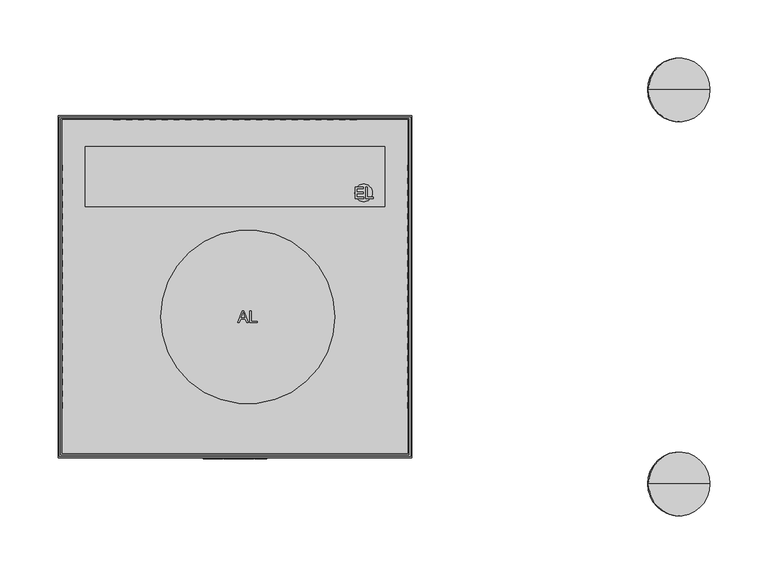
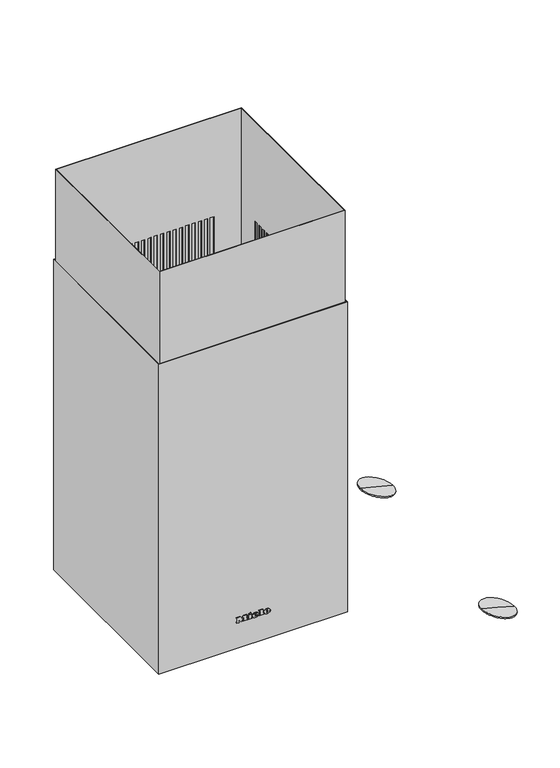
"""IFC4 building model written with IfcOpenShell, lengths in millimetres: proxy geometry, 10863270_RU_DA4208VD_EDST : 28420855_RU_10863270_DA4208VD_EDST."""

from ifc_helpers import new_model, si_unit, point, frame, frame_2d, origin, place, context, project, spatial, polyline, circle_curve, ellipse_curve, trimmed, segment, composite_curve, outline, extrude, faceted_brep, source, transform, mapped, element, save
from ifc_brep_helpers import plane_surface, cylinder_surface, revolved_surface, extruded_surface, advanced_brep


def specialty_equipment_3f4daebc(model_context):
    return source(origin(), model_context, "Body", "SolidModel", [
        advanced_brep(
        [(21.38, -148.5, 116.133), (21.38, -148.5, 117.042), (27.401, -148.5, 117.042), (16.925, -148.5, 117.042), (19.4, -148.5, 114.0), (27.248, -148.5, 116.133), (24.53, -148.5, 116.133), (22.388, -148.5, 115.125), (21.38, -148.5, 118.194), (21.38, -148.5, 119.175), (22.919, -148.5, 119.175), (22.919, -148.5, 118.194), (21.38, -147.5, 116.133), (22.388, -147.5, 115.125), (24.53, -147.5, 116.133), (27.248, -147.5, 116.133), (19.4, -147.5, 114.0), (16.925, -147.5, 117.042), (27.401, -147.5, 117.042), (21.38, -147.5, 117.042), (21.38, -147.5, 118.194), (22.919, -147.5, 118.194), (22.919, -147.5, 119.175), (21.38, -147.5, 119.175)],
        [
            (0, 1),
            (1, 2),
            (2, 3, ellipse_curve(frame((22.163, -148.5, 117.042), z_axis=(0.0, -1.0, 0.0), x_axis=(-1.0, 0.0, 0.0)), 5.238, 4.329)),
            (3, 4, circle_curve(frame((20.4080491, -148.5, 117.348), z_axis=(0.0, -1.0, 0.0), x_axis=(0.0, 0.0, -1.0)), 3.4964649)),
            (4, 5, circle_curve(frame((22.0581428, -148.5, 119.724), z_axis=(0.0, -1.0, 0.0), x_axis=(0.0, 0.0, -1.0)), 6.3110933)),
            (5, 6),
            (6, 7, circle_curve(frame((22.8279412, -148.5, 116.97), z_axis=(0.0, 1.0, 0.0), x_axis=(0.0, 0.0, -1.0)), 1.896727)),
            (7, 0, circle_curve(frame((22.388, -148.5, 116.133), z_axis=(0.0, 1.0, 0.0), x_axis=(0.0, 0.0, -1.0)), 1.008)),
            (8, 9),
            (9, 10, circle_curve(frame((22.1495, -148.5, 119.175), z_axis=(0.0, 1.0, 0.0), x_axis=(0.0, 0.0, -1.0)), 0.7695)),
            (10, 11),
            (11, 8),
            (12, 13, circle_curve(frame((22.388, -147.5, 116.133), z_axis=(0.0, -1.0, 0.0), x_axis=(0.0, 0.0, -1.0)), 1.008)),
            (13, 14, circle_curve(frame((22.8279412, -147.5, 116.97), z_axis=(0.0, -1.0, 0.0), x_axis=(0.0, 0.0, -1.0)), 1.896727)),
            (14, 15),
            (15, 16, circle_curve(frame((22.0581428, -147.5, 119.724), z_axis=(0.0, 1.0, 0.0), x_axis=(0.0, 0.0, -1.0)), 6.3110933)),
            (16, 17, circle_curve(frame((20.4080491, -147.5, 117.348), z_axis=(0.0, 1.0, 0.0), x_axis=(0.0, 0.0, -1.0)), 3.4964649)),
            (17, 18, ellipse_curve(frame((22.163, -147.5, 117.042), z_axis=(0.0, 1.0, 0.0), x_axis=(-1.0, 0.0, 0.0)), 5.238, 4.329)),
            (18, 19),
            (19, 12),
            (20, 21),
            (21, 22),
            (22, 23, circle_curve(frame((22.1495, -147.5, 119.175), z_axis=(0.0, -1.0, 0.0), x_axis=(0.0, 0.0, -1.0)), 0.7695)),
            (23, 20),
            (0, 12),
            (19, 1),
            (18, 2),
            (5, 15),
            (14, 6),
            (17, 3),
            (13, 7),
            (16, 4),
            (8, 20),
            (23, 9),
            (22, 10),
            (21, 11),
        ],
        [
            plane_surface(frame((21.38, -148.5, 117.042), z_axis=(0.0, -1.0, 0.0), x_axis=(0.0, 0.0, 1.0))),
            plane_surface(frame((21.38, -147.5, 117.042), z_axis=(0.0, 1.0, 0.0), x_axis=(0.0, 0.0, -1.0))),
            plane_surface(frame((21.38, -148.5, 116.133), z_axis=(1.0, 0.0, 0.0), x_axis=(0.0, 1.0, 0.0))),
            plane_surface(frame((21.38, -148.5, 117.042), z_axis=(0.0, 0.0, -1.0), x_axis=(0.0, 1.0, 0.0))),
            plane_surface(frame((27.248, -148.5, 116.133), z_axis=(0.0, 0.0, 1.0), x_axis=(0.0, 1.0, 0.0))),
            extruded_surface(trimmed(ellipse_curve(frame((22.163, -146.5, 117.042), z_axis=(0.0, -1.0, 0.0), x_axis=(-1.0, 0.0, 0.0)), 5.238, 4.329), [point((27.401, -146.5, 117.042))], [point((16.925, -146.5, 117.042))], True, "CARTESIAN"), (0.0, -1.0, 0.0), 1.0),
            revolved_surface(polyline([(22.8279412, -147.5, 115.073273), (22.8279412, -148.5, 115.073273)]), (22.8279412, -147.5, 116.97), (0.0, 1.0, 0.0)),
            revolved_surface(polyline([(22.388, -147.5, 115.125), (22.388, -148.5, 115.125)]), (22.388, -147.5, 116.133), (0.0, 1.0, 0.0)),
            cylinder_surface(frame((20.4080491, -147.5, 117.348), z_axis=(0.0, -1.0, 0.0), x_axis=(0.0, 0.0, -1.0)), 3.4964649),
            cylinder_surface(frame((22.0581428, -147.5, 119.724), z_axis=(0.0, -1.0, 0.0), x_axis=(0.0, 0.0, -1.0)), 6.3110933),
            plane_surface(frame((21.38, -148.5, 118.194), z_axis=(1.0, 0.0, 0.0), x_axis=(0.0, 1.0, 0.0))),
            revolved_surface(polyline([(22.1495, -147.5, 118.4055), (22.1495, -148.5, 118.4055)]), (22.1495, -147.5, 119.175), (0.0, 1.0, 0.0)),
            plane_surface(frame((22.919, -148.5, 119.175), z_axis=(-1.0, 0.0, 0.0), x_axis=(0.0, 1.0, 0.0))),
            plane_surface(frame((22.919, -148.5, 118.194), z_axis=(0.0, 0.0, 1.0), x_axis=(0.0, 1.0, 0.0))),
        ],
        [
            (0, [[1, 2, 3, 4, 5, 6, 7, 8], [9, 10, 11, 12]]),
            (1, [[13, 14, 15, 16, 17, 18, 19, 20], [21, 22, 23, 24]]),
            (2, [[-1, 25, -20, 26]]),
            (3, [[-2, -26, -19, 27]]),
            (4, [[-6, 28, -15, 29]]),
            (5, [[-3, -27, -18, 30]]),
            (6, [[-7, -29, -14, 31]]),
            (7, [[-8, -31, -13, -25]]),
            (8, [[-4, -30, -17, 32]]),
            (9, [[-5, -32, -16, -28]]),
            (10, [[-9, 33, -24, 34]]),
            (11, [[-10, -34, -23, 35]]),
            (12, [[-11, -35, -22, 36]]),
            (13, [[-12, -36, -21, -33]]),
        ],
    ),
        advanced_brep(
        [(2.597, -148.5, 116.133), (2.597, -148.5, 117.042), (8.618, -148.5, 117.042), (-1.858, -148.5, 117.042), (0.617, -148.5, 114.0), (8.465, -148.5, 116.133), (5.747, -148.5, 116.133), (3.605, -148.5, 115.125), (2.597, -148.5, 118.194), (2.597, -148.5, 119.175), (4.136, -148.5, 119.175), (4.136, -148.5, 118.194), (2.597, -147.5, 116.133), (3.605, -147.5, 115.125), (5.747, -147.5, 116.133), (8.465, -147.5, 116.133), (0.617, -147.5, 114.0), (-1.858, -147.5, 117.042), (8.618, -147.5, 117.042), (2.597, -147.5, 117.042), (2.597, -147.5, 118.194), (4.136, -147.5, 118.194), (4.136, -147.5, 119.175), (2.597, -147.5, 119.175)],
        [
            (0, 1),
            (1, 2),
            (2, 3, ellipse_curve(frame((3.38, -148.5, 117.042), z_axis=(0.0, -1.0, 0.0), x_axis=(-1.0, 0.0, 0.0)), 5.238, 4.329)),
            (3, 4, circle_curve(frame((1.6250491, -148.5, 117.348), z_axis=(0.0, -1.0, 0.0), x_axis=(0.0, 0.0, -1.0)), 3.4964649)),
            (4, 5, circle_curve(frame((3.2751428, -148.5, 119.724), z_axis=(0.0, -1.0, 0.0), x_axis=(0.0, 0.0, -1.0)), 6.3110933)),
            (5, 6),
            (6, 7, circle_curve(frame((4.0449412, -148.5, 116.97), z_axis=(0.0, 1.0, 0.0), x_axis=(0.0, 0.0, -1.0)), 1.896727)),
            (7, 0, circle_curve(frame((3.605, -148.5, 116.133), z_axis=(0.0, 1.0, 0.0), x_axis=(0.0, 0.0, -1.0)), 1.008)),
            (8, 9),
            (9, 10, circle_curve(frame((3.3665, -148.5, 119.175), z_axis=(0.0, 1.0, 0.0), x_axis=(0.0, 0.0, -1.0)), 0.7695)),
            (10, 11),
            (11, 8),
            (12, 13, circle_curve(frame((3.605, -147.5, 116.133), z_axis=(0.0, -1.0, 0.0), x_axis=(0.0, 0.0, -1.0)), 1.008)),
            (13, 14, circle_curve(frame((4.0449412, -147.5, 116.97), z_axis=(0.0, -1.0, 0.0), x_axis=(0.0, 0.0, -1.0)), 1.896727)),
            (14, 15),
            (15, 16, circle_curve(frame((3.2751428, -147.5, 119.724), z_axis=(0.0, 1.0, 0.0), x_axis=(0.0, 0.0, -1.0)), 6.3110933)),
            (16, 17, circle_curve(frame((1.6250491, -147.5, 117.348), z_axis=(0.0, 1.0, 0.0), x_axis=(0.0, 0.0, -1.0)), 3.4964649)),
            (17, 18, ellipse_curve(frame((3.38, -147.5, 117.042), z_axis=(0.0, 1.0, 0.0), x_axis=(-1.0, 0.0, 0.0)), 5.238, 4.329)),
            (18, 19),
            (19, 12),
            (20, 21),
            (21, 22),
            (22, 23, circle_curve(frame((3.3665, -147.5, 119.175), z_axis=(0.0, -1.0, 0.0), x_axis=(0.0, 0.0, -1.0)), 0.7695)),
            (23, 20),
            (0, 12),
            (19, 1),
            (18, 2),
            (5, 15),
            (14, 6),
            (17, 3),
            (13, 7),
            (16, 4),
            (8, 20),
            (23, 9),
            (22, 10),
            (21, 11),
        ],
        [
            plane_surface(frame((2.597, -148.5, 117.042), z_axis=(0.0, -1.0, 0.0), x_axis=(0.0, 0.0, 1.0))),
            plane_surface(frame((2.597, -147.5, 117.042), z_axis=(0.0, 1.0, 0.0), x_axis=(0.0, 0.0, -1.0))),
            plane_surface(frame((2.597, -148.5, 116.133), z_axis=(1.0, 0.0, 0.0), x_axis=(0.0, 1.0, 0.0))),
            plane_surface(frame((2.597, -148.5, 117.042), z_axis=(0.0, 0.0, -1.0), x_axis=(0.0, 1.0, 0.0))),
            plane_surface(frame((8.465, -148.5, 116.133), z_axis=(0.0, 0.0, 1.0), x_axis=(0.0, 1.0, 0.0))),
            extruded_surface(trimmed(ellipse_curve(frame((3.38, -146.5, 117.042), z_axis=(0.0, -1.0, 0.0), x_axis=(-1.0, 0.0, 0.0)), 5.238, 4.329), [point((8.618, -146.5, 117.042))], [point((-1.858, -146.5, 117.042))], True, "CARTESIAN"), (0.0, -1.0, 0.0), 1.0),
            revolved_surface(polyline([(4.0449412, -147.5, 115.073273), (4.0449412, -148.5, 115.073273)]), (4.0449412, -147.5, 116.97), (0.0, 1.0, 0.0)),
            revolved_surface(polyline([(3.605, -147.5, 115.125), (3.605, -148.5, 115.125)]), (3.605, -147.5, 116.133), (0.0, 1.0, 0.0)),
            cylinder_surface(frame((1.6250491, -147.5, 117.348), z_axis=(0.0, -1.0, 0.0), x_axis=(0.0, 0.0, -1.0)), 3.4964649),
            cylinder_surface(frame((3.2751428, -147.5, 119.724), z_axis=(0.0, -1.0, 0.0), x_axis=(0.0, 0.0, -1.0)), 6.3110933),
            plane_surface(frame((2.597, -148.5, 118.194), z_axis=(1.0, 0.0, 0.0), x_axis=(0.0, 1.0, 0.0))),
            revolved_surface(polyline([(3.3665, -147.5, 118.4055), (3.3665, -148.5, 118.4055)]), (3.3665, -147.5, 119.175), (0.0, 1.0, 0.0)),
            plane_surface(frame((4.136, -148.5, 119.175), z_axis=(-1.0, 0.0, 0.0), x_axis=(0.0, 1.0, 0.0))),
            plane_surface(frame((4.136, -148.5, 118.194), z_axis=(0.0, 0.0, 1.0), x_axis=(0.0, 1.0, 0.0))),
        ],
        [
            (0, [[1, 2, 3, 4, 5, 6, 7, 8], [9, 10, 11, 12]]),
            (1, [[13, 14, 15, 16, 17, 18, 19, 20], [21, 22, 23, 24]]),
            (2, [[-1, 25, -20, 26]]),
            (3, [[-2, -26, -19, 27]]),
            (4, [[-6, 28, -15, 29]]),
            (5, [[-3, -27, -18, 30]]),
            (6, [[-7, -29, -14, 31]]),
            (7, [[-8, -31, -13, -25]]),
            (8, [[-4, -30, -17, 32]]),
            (9, [[-5, -32, -16, -28]]),
            (10, [[-9, 33, -24, 34]]),
            (11, [[-10, -34, -23, 35]]),
            (12, [[-11, -35, -22, 36]]),
            (13, [[-12, -36, -21, -33]]),
        ],
    ),
        extrude(outline(polyline([(122.469, -7.24), (121.011, -6.556), (122.433, -3.505), (123.891, -4.18), (122.469, -7.24)])), frame((0.0, -148.5, 0.0), z_axis=(0.0, 1.0, 0.0), x_axis=(0.0, 0.0, 1.0)), (0.0, 0.0, 1.0), 1.0),
        extrude(outline(polyline([(120.813, -9.463), (119.202, -9.463), (119.202, -8.392), (115.512, -8.392), (115.512, -9.463), (114.0, -9.463), (114.0, -2.362), (115.512, -2.362), (115.512, -3.406), (120.813, -3.406), (120.813, -9.463)])), frame((0.0, -148.5, 0.0), z_axis=(0.0, 1.0, 0.0), x_axis=(0.0, 0.0, 1.0)), (0.0, 0.0, 1.0), 1.0),
        extrude(outline(polyline([(121.533, 9.122), (121.533, 10.202), (115.512, 10.202), (115.512, 9.122), (114.0, 9.122), (114.0, 16.421), (115.512, 16.421), (115.512, 15.314), (123.0, 15.314), (123.0, 9.122), (121.533, 9.122)])), frame((0.0, -148.5, 0.0), z_axis=(0.0, 1.0, 0.0), x_axis=(0.0, 0.0, 1.0)), (0.0, 0.0, 1.0), 1.0),
        extrude(outline(polyline([(121.533, -27.4), (121.533, -26.311), (115.512, -26.311), (115.512, -27.4), (114.0, -27.4), (114.0, -23.44), (115.512, -23.44), (115.512, -24.52), (119.3341247, -24.52), (114.0, -20.497), (119.4402223, -16.456), (115.512, -16.456), (115.512, -17.563), (114.0, -17.563), (114.0, -10.381), (115.512, -10.381), (115.512, -11.524), (121.533, -11.524), (121.533, -10.381), (123.0, -10.381), (123.0, -15.862), (119.625, -18.49), (123.0, -21.127), (123.0, -27.4), (121.533, -27.4)])), frame((0.0, -148.5, 0.0), z_axis=(0.0, 1.0, 0.0), x_axis=(0.0, 0.0, 1.0)), (0.0, 0.0, 1.0), 1.0),
        faceted_brep([(-150.0, -145.0, 755.0), (150.0, -145.0, 755.0), (150.0, 145.0, 755.0), (-150.0, 145.0, 755.0), (-149.0, -144.0, 755.0), (-149.0, 144.0, 755.0), (149.0, 144.0, 755.0), (149.0, -144.0, 755.0), (-150.0, -145.0, 440.0), (-150.0, 145.0, 440.0), (150.0, 145.0, 440.0), (150.0, -145.0, 440.0), (-149.0, -144.0, 440.0), (149.0, -144.0, 440.0), (149.0, 144.0, 440.0), (-149.0, 144.0, 440.0), (-105.0, -145.0, 585.0), (-98.8, -145.0, 585.0), (-98.8, -145.0, 485.0), (-105.0, -145.0, 485.0), (98.8, -145.0, 585.0), (105.0, -145.0, 585.0), (105.0, -145.0, 485.0), (98.8, -145.0, 485.0), (-93.6, -145.0, 585.0), (-88.6, -145.0, 585.0), (-88.6, -145.0, 485.0), (-93.6, -145.0, 485.0), (-83.4, -145.0, 585.0), (-78.4, -145.0, 585.0), (-78.4, -145.0, 485.0), (-83.4, -145.0, 485.0), (-73.2, -145.0, 585.0), (-68.2, -145.0, 585.0), (-68.2, -145.0, 485.0), (-73.2, -145.0, 485.0), (-63.0, -145.0, 585.0), (-58.0, -145.0, 585.0), (-58.0, -145.0, 485.0), (-63.0, -145.0, 485.0), (-52.8, -145.0, 585.0), (-47.8, -145.0, 585.0), (-47.8, -145.0, 485.0), (-52.8, -145.0, 485.0), (-42.6, -145.0, 585.0), (-37.6, -145.0, 585.0), (-37.6, -145.0, 485.0), (-42.6, -145.0, 485.0), (-32.4, -145.0, 585.0), (-27.4, -145.0, 585.0), (-27.4, -145.0, 485.0), (-32.4, -145.0, 485.0), (-22.2, -145.0, 585.0), (-17.2, -145.0, 585.0), (-17.2, -145.0, 485.0), (-22.2, -145.0, 485.0), (-12.0, -145.0, 585.0), (-7.0, -145.0, 585.0), (-7.0, -145.0, 485.0), (-12.0, -145.0, 485.0), (-1.8, -145.0, 585.0), (3.2, -145.0, 585.0), (3.2, -145.0, 485.0), (-1.8, -145.0, 485.0), (8.4, -145.0, 585.0), (13.4, -145.0, 585.0), (13.4, -145.0, 485.0), (8.4, -145.0, 485.0), (18.6, -145.0, 585.0), (23.6, -145.0, 585.0), (23.6, -145.0, 485.0), (18.6, -145.0, 485.0), (28.8, -145.0, 585.0), (33.8, -145.0, 585.0), (33.8, -145.0, 485.0), (28.8, -145.0, 485.0), (39.0, -145.0, 585.0), (44.0, -145.0, 585.0), (44.0, -145.0, 485.0), (39.0, -145.0, 485.0), (49.2, -145.0, 585.0), (54.2, -145.0, 585.0), (54.2, -145.0, 485.0), (49.2, -145.0, 485.0), (59.4, -145.0, 585.0), (64.4, -145.0, 585.0), (64.4, -145.0, 485.0), (59.4, -145.0, 485.0), (69.6, -145.0, 585.0), (74.6, -145.0, 585.0), (74.6, -145.0, 485.0), (69.6, -145.0, 485.0), (79.8, -145.0, 585.0), (84.8, -145.0, 585.0), (84.8, -145.0, 485.0), (79.8, -145.0, 485.0), (90.0, -145.0, 585.0), (95.0, -145.0, 585.0), (95.0, -145.0, 485.0), (90.0, -145.0, 485.0), (150.0, -105.0, 585.0), (150.0, -100.0, 585.0), (150.0, -100.0, 485.0), (150.0, -105.0, 485.0), (150.0, -94.8, 585.0), (150.0, -89.8, 585.0), (150.0, -89.8, 485.0), (150.0, -94.8, 485.0), (150.0, -84.6, 585.0), (150.0, -79.6, 585.0), (150.0, -79.6, 485.0), (150.0, -84.6, 485.0), (150.0, -74.4, 585.0), (150.0, -69.4, 585.0), (150.0, -69.4, 485.0), (150.0, -74.4, 485.0), (150.0, -64.2, 585.0), (150.0, -59.2, 585.0), (150.0, -59.2, 485.0), (150.0, -64.2, 485.0), (150.0, -54.0, 585.0), (150.0, -49.0, 585.0), (150.0, -49.0, 485.0), (150.0, -54.0, 485.0), (150.0, -43.8, 585.0), (150.0, -38.8, 585.0), (150.0, -38.8, 485.0), (150.0, -43.8, 485.0), (150.0, -33.6, 585.0), (150.0, -28.6, 585.0), (150.0, -28.6, 485.0), (150.0, -33.6, 485.0), (150.0, -23.4, 585.0), (150.0, -18.4, 585.0), (150.0, -18.4, 485.0), (150.0, -23.4, 485.0), (150.0, -13.2, 585.0), (150.0, -8.2, 585.0), (150.0, -8.2, 485.0), (150.0, -13.2, 485.0), (150.0, -3.0, 585.0), (150.0, 2.0, 585.0), (150.0, 2.0, 485.0), (150.0, -3.0, 485.0), (150.0, 7.2, 585.0), (150.0, 12.2, 585.0), (150.0, 12.2, 485.0), (150.0, 7.2, 485.0), (150.0, 17.4, 585.0), (150.0, 22.4, 585.0), (150.0, 22.4, 485.0), (150.0, 17.4, 485.0), (150.0, 27.6, 585.0), (150.0, 32.6, 585.0), (150.0, 32.6, 485.0), (150.0, 27.6, 485.0), (150.0, 37.8, 585.0), (150.0, 42.8, 585.0), (150.0, 42.8, 485.0), (150.0, 37.8, 485.0), (150.0, 48.0, 585.0), (150.0, 53.0, 585.0), (150.0, 53.0, 485.0), (150.0, 48.0, 485.0), (150.0, 58.2, 585.0), (150.0, 63.2, 585.0), (150.0, 63.2, 485.0), (150.0, 58.2, 485.0), (150.0, 68.4, 585.0), (150.0, 73.4, 585.0), (150.0, 73.4, 485.0), (150.0, 68.4, 485.0), (150.0, 100.0, 585.0), (150.0, 105.0, 585.0), (150.0, 105.0, 485.0), (150.0, 100.0, 485.0), (150.0, 78.6, 585.0), (150.0, 83.6, 585.0), (150.0, 83.6, 485.0), (150.0, 78.6, 485.0), (150.0, 88.8, 585.0), (150.0, 93.8, 585.0), (150.0, 93.8, 485.0), (150.0, 88.8, 485.0), (-98.8, 145.0, 585.0), (-105.0, 145.0, 585.0), (-105.0, 145.0, 485.0), (-98.8, 145.0, 485.0), (105.0, 145.0, 585.0), (98.8, 145.0, 585.0), (98.8, 145.0, 485.0), (105.0, 145.0, 485.0), (-88.6, 145.0, 585.0), (-93.6, 145.0, 585.0), (-93.6, 145.0, 485.0), (-88.6, 145.0, 485.0), (-78.4, 145.0, 585.0), (-83.4, 145.0, 585.0), (-83.4, 145.0, 485.0), (-78.4, 145.0, 485.0), (-68.2, 145.0, 585.0), (-73.2, 145.0, 585.0), (-73.2, 145.0, 485.0), (-68.2, 145.0, 485.0), (-58.0, 145.0, 585.0), (-63.0, 145.0, 585.0), (-63.0, 145.0, 485.0), (-58.0, 145.0, 485.0), (-47.8, 145.0, 585.0), (-52.8, 145.0, 585.0), (-52.8, 145.0, 485.0), (-47.8, 145.0, 485.0), (-37.6, 145.0, 585.0), (-42.6, 145.0, 585.0), (-42.6, 145.0, 485.0), (-37.6, 145.0, 485.0), (-27.4, 145.0, 585.0), (-32.4, 145.0, 585.0), (-32.4, 145.0, 485.0), (-27.4, 145.0, 485.0), (-17.2, 145.0, 585.0), (-22.2, 145.0, 585.0), (-22.2, 145.0, 485.0), (-17.2, 145.0, 485.0), (-7.0, 145.0, 585.0), (-12.0, 145.0, 585.0), (-12.0, 145.0, 485.0), (-7.0, 145.0, 485.0), (3.2, 145.0, 585.0), (-1.8, 145.0, 585.0), (-1.8, 145.0, 485.0), (3.2, 145.0, 485.0), (13.4, 145.0, 585.0), (8.4, 145.0, 585.0), (8.4, 145.0, 485.0), (13.4, 145.0, 485.0), (23.6, 145.0, 585.0), (18.6, 145.0, 585.0), (18.6, 145.0, 485.0), (23.6, 145.0, 485.0), (33.8, 145.0, 585.0), (28.8, 145.0, 585.0), (28.8, 145.0, 485.0), (33.8, 145.0, 485.0), (44.0, 145.0, 585.0), (39.0, 145.0, 585.0), (39.0, 145.0, 485.0), (44.0, 145.0, 485.0), (54.2, 145.0, 585.0), (49.2, 145.0, 585.0), (49.2, 145.0, 485.0), (54.2, 145.0, 485.0), (64.4, 145.0, 585.0), (59.4, 145.0, 585.0), (59.4, 145.0, 485.0), (64.4, 145.0, 485.0), (74.6, 145.0, 585.0), (69.6, 145.0, 585.0), (69.6, 145.0, 485.0), (74.6, 145.0, 485.0), (84.8, 145.0, 585.0), (79.8, 145.0, 585.0), (79.8, 145.0, 485.0), (84.8, 145.0, 485.0), (95.0, 145.0, 585.0), (90.0, 145.0, 585.0), (90.0, 145.0, 485.0), (95.0, 145.0, 485.0), (-150.0, -100.0, 585.0), (-150.0, -105.0, 585.0), (-150.0, -105.0, 485.0), (-150.0, -100.0, 485.0), (-150.0, -89.8, 585.0), (-150.0, -94.8, 585.0), (-150.0, -94.8, 485.0), (-150.0, -89.8, 485.0), (-150.0, -79.6, 585.0), (-150.0, -84.6, 585.0), (-150.0, -84.6, 485.0), (-150.0, -79.6, 485.0), (-150.0, -69.4, 585.0), (-150.0, -74.4, 585.0), (-150.0, -74.4, 485.0), (-150.0, -69.4, 485.0), (-150.0, -59.2, 585.0), (-150.0, -64.2, 585.0), (-150.0, -64.2, 485.0), (-150.0, -59.2, 485.0), (-150.0, -49.0, 585.0), (-150.0, -54.0, 585.0), (-150.0, -54.0, 485.0), (-150.0, -49.0, 485.0), (-150.0, -38.8, 585.0), (-150.0, -43.8, 585.0), (-150.0, -43.8, 485.0), (-150.0, -38.8, 485.0), (-150.0, -28.6, 585.0), (-150.0, -33.6, 585.0), (-150.0, -33.6, 485.0), (-150.0, -28.6, 485.0), (-150.0, -18.4, 585.0), (-150.0, -23.4, 585.0), (-150.0, -23.4, 485.0), (-150.0, -18.4, 485.0), (-150.0, -8.2, 585.0), (-150.0, -13.2, 585.0), (-150.0, -13.2, 485.0), (-150.0, -8.2, 485.0), (-150.0, 2.0, 585.0), (-150.0, -3.0, 585.0), (-150.0, -3.0, 485.0), (-150.0, 2.0, 485.0), (-150.0, 12.2, 585.0), (-150.0, 7.2, 585.0), (-150.0, 7.2, 485.0), (-150.0, 12.2, 485.0), (-150.0, 22.4, 585.0), (-150.0, 17.4, 585.0), (-150.0, 17.4, 485.0), (-150.0, 22.4, 485.0), (-150.0, 32.6, 585.0), (-150.0, 27.6, 585.0), (-150.0, 27.6, 485.0), (-150.0, 32.6, 485.0), (-150.0, 42.8, 585.0), (-150.0, 37.8, 585.0), (-150.0, 37.8, 485.0), (-150.0, 42.8, 485.0), (-150.0, 53.0, 585.0), (-150.0, 48.0, 585.0), (-150.0, 48.0, 485.0), (-150.0, 53.0, 485.0), (-150.0, 63.2, 585.0), (-150.0, 58.2, 585.0), (-150.0, 58.2, 485.0), (-150.0, 63.2, 485.0), (-150.0, 73.4, 585.0), (-150.0, 68.4, 585.0), (-150.0, 68.4, 485.0), (-150.0, 73.4, 485.0), (-150.0, 105.0, 585.0), (-150.0, 100.0, 585.0), (-150.0, 100.0, 485.0), (-150.0, 105.0, 485.0), (-150.0, 83.6, 585.0), (-150.0, 78.6, 585.0), (-150.0, 78.6, 485.0), (-150.0, 83.6, 485.0), (-150.0, 93.8, 585.0), (-150.0, 88.8, 585.0), (-150.0, 88.8, 485.0), (-150.0, 93.8, 485.0), (-149.0, -105.0, 585.0), (-149.0, -100.0, 585.0), (-149.0, -100.0, 485.0), (-149.0, -105.0, 485.0), (-149.0, -94.8, 585.0), (-149.0, -89.8, 585.0), (-149.0, -89.8, 485.0), (-149.0, -94.8, 485.0), (-149.0, -84.6, 585.0), (-149.0, -79.6, 585.0), (-149.0, -79.6, 485.0), (-149.0, -84.6, 485.0), (-149.0, -74.4, 585.0), (-149.0, -69.4, 585.0), (-149.0, -69.4, 485.0), (-149.0, -74.4, 485.0), (-149.0, -64.2, 585.0), (-149.0, -59.2, 585.0), (-149.0, -59.2, 485.0), (-149.0, -64.2, 485.0), (-149.0, -54.0, 585.0), (-149.0, -49.0, 585.0), (-149.0, -49.0, 485.0), (-149.0, -54.0, 485.0), (-149.0, -43.8, 585.0), (-149.0, -38.8, 585.0), (-149.0, -38.8, 485.0), (-149.0, -43.8, 485.0), (-149.0, -33.6, 585.0), (-149.0, -28.6, 585.0), (-149.0, -28.6, 485.0), (-149.0, -33.6, 485.0), (-149.0, -23.4, 585.0), (-149.0, -18.4, 585.0), (-149.0, -18.4, 485.0), (-149.0, -23.4, 485.0), (-149.0, -13.2, 585.0), (-149.0, -8.2, 585.0), (-149.0, -8.2, 485.0), (-149.0, -13.2, 485.0), (-149.0, -3.0, 585.0), (-149.0, 2.0, 585.0), (-149.0, 2.0, 485.0), (-149.0, -3.0, 485.0), (-149.0, 7.2, 585.0), (-149.0, 12.2, 585.0), (-149.0, 12.2, 485.0), (-149.0, 7.2, 485.0), (-149.0, 17.4, 585.0), (-149.0, 22.4, 585.0), (-149.0, 22.4, 485.0), (-149.0, 17.4, 485.0), (-149.0, 27.6, 585.0), (-149.0, 32.6, 585.0), (-149.0, 32.6, 485.0), (-149.0, 27.6, 485.0), (-149.0, 37.8, 585.0), (-149.0, 42.8, 585.0), (-149.0, 42.8, 485.0), (-149.0, 37.8, 485.0), (-149.0, 48.0, 585.0), (-149.0, 53.0, 585.0), (-149.0, 53.0, 485.0), (-149.0, 48.0, 485.0), (-149.0, 58.2, 585.0), (-149.0, 63.2, 585.0), (-149.0, 63.2, 485.0), (-149.0, 58.2, 485.0), (-149.0, 68.4, 585.0), (-149.0, 73.4, 585.0), (-149.0, 73.4, 485.0), (-149.0, 68.4, 485.0), (-149.0, 100.0, 585.0), (-149.0, 105.0, 585.0), (-149.0, 105.0, 485.0), (-149.0, 100.0, 485.0), (-149.0, 78.6, 585.0), (-149.0, 83.6, 585.0), (-149.0, 83.6, 485.0), (-149.0, 78.6, 485.0), (-149.0, 88.8, 585.0), (-149.0, 93.8, 585.0), (-149.0, 93.8, 485.0), (-149.0, 88.8, 485.0), (-105.0, 144.0, 585.0), (-98.8, 144.0, 585.0), (-98.8, 144.0, 485.0), (-105.0, 144.0, 485.0), (98.8, 144.0, 585.0), (105.0, 144.0, 585.0), (105.0, 144.0, 485.0), (98.8, 144.0, 485.0), (-93.6, 144.0, 585.0), (-88.6, 144.0, 585.0), (-88.6, 144.0, 485.0), (-93.6, 144.0, 485.0), (-83.4, 144.0, 585.0), (-78.4, 144.0, 585.0), (-78.4, 144.0, 485.0), (-83.4, 144.0, 485.0), (-73.2, 144.0, 585.0), (-68.2, 144.0, 585.0), (-68.2, 144.0, 485.0), (-73.2, 144.0, 485.0), (-63.0, 144.0, 585.0), (-58.0, 144.0, 585.0), (-58.0, 144.0, 485.0), (-63.0, 144.0, 485.0), (-52.8, 144.0, 585.0), (-47.8, 144.0, 585.0), (-47.8, 144.0, 485.0), (-52.8, 144.0, 485.0), (-42.6, 144.0, 585.0), (-37.6, 144.0, 585.0), (-37.6, 144.0, 485.0), (-42.6, 144.0, 485.0), (-32.4, 144.0, 585.0), (-27.4, 144.0, 585.0), (-27.4, 144.0, 485.0), (-32.4, 144.0, 485.0), (-22.2, 144.0, 585.0), (-17.2, 144.0, 585.0), (-17.2, 144.0, 485.0), (-22.2, 144.0, 485.0), (-12.0, 144.0, 585.0), (-7.0, 144.0, 585.0), (-7.0, 144.0, 485.0), (-12.0, 144.0, 485.0), (-1.8, 144.0, 585.0), (3.2, 144.0, 585.0), (3.2, 144.0, 485.0), (-1.8, 144.0, 485.0), (8.4, 144.0, 585.0), (13.4, 144.0, 585.0), (13.4, 144.0, 485.0), (8.4, 144.0, 485.0), (18.6, 144.0, 585.0), (23.6, 144.0, 585.0), (23.6, 144.0, 485.0), (18.6, 144.0, 485.0), (28.8, 144.0, 585.0), (33.8, 144.0, 585.0), (33.8, 144.0, 485.0), (28.8, 144.0, 485.0), (39.0, 144.0, 585.0), (44.0, 144.0, 585.0), (44.0, 144.0, 485.0), (39.0, 144.0, 485.0), (49.2, 144.0, 585.0), (54.2, 144.0, 585.0), (54.2, 144.0, 485.0), (49.2, 144.0, 485.0), (59.4, 144.0, 585.0), (64.4, 144.0, 585.0), (64.4, 144.0, 485.0), (59.4, 144.0, 485.0), (69.6, 144.0, 585.0), (74.6, 144.0, 585.0), (74.6, 144.0, 485.0), (69.6, 144.0, 485.0), (79.8, 144.0, 585.0), (84.8, 144.0, 585.0), (84.8, 144.0, 485.0), (79.8, 144.0, 485.0), (90.0, 144.0, 585.0), (95.0, 144.0, 585.0), (95.0, 144.0, 485.0), (90.0, 144.0, 485.0), (149.0, -100.0, 585.0), (149.0, -105.0, 585.0), (149.0, -105.0, 485.0), (149.0, -100.0, 485.0), (149.0, -89.8, 585.0), (149.0, -94.8, 585.0), (149.0, -94.8, 485.0), (149.0, -89.8, 485.0), (149.0, -79.6, 585.0), (149.0, -84.6, 585.0), (149.0, -84.6, 485.0), (149.0, -79.6, 485.0), (149.0, -69.4, 585.0), (149.0, -74.4, 585.0), (149.0, -74.4, 485.0), (149.0, -69.4, 485.0), (149.0, -59.2, 585.0), (149.0, -64.2, 585.0), (149.0, -64.2, 485.0), (149.0, -59.2, 485.0), (149.0, -49.0, 585.0), (149.0, -54.0, 585.0), (149.0, -54.0, 485.0), (149.0, -49.0, 485.0), (149.0, -38.8, 585.0), (149.0, -43.8, 585.0), (149.0, -43.8, 485.0), (149.0, -38.8, 485.0), (149.0, -28.6, 585.0), (149.0, -33.6, 585.0), (149.0, -33.6, 485.0), (149.0, -28.6, 485.0), (149.0, -18.4, 585.0), (149.0, -23.4, 585.0), (149.0, -23.4, 485.0), (149.0, -18.4, 485.0), (149.0, -8.2, 585.0), (149.0, -13.2, 585.0), (149.0, -13.2, 485.0), (149.0, -8.2, 485.0), (149.0, 2.0, 585.0), (149.0, -3.0, 585.0), (149.0, -3.0, 485.0), (149.0, 2.0, 485.0), (149.0, 12.2, 585.0), (149.0, 7.2, 585.0), (149.0, 7.2, 485.0), (149.0, 12.2, 485.0), (149.0, 22.4, 585.0), (149.0, 17.4, 585.0), (149.0, 17.4, 485.0), (149.0, 22.4, 485.0), (149.0, 32.6, 585.0), (149.0, 27.6, 585.0), (149.0, 27.6, 485.0), (149.0, 32.6, 485.0), (149.0, 42.8, 585.0), (149.0, 37.8, 585.0), (149.0, 37.8, 485.0), (149.0, 42.8, 485.0), (149.0, 53.0, 585.0), (149.0, 48.0, 585.0), (149.0, 48.0, 485.0), (149.0, 53.0, 485.0), (149.0, 63.2, 585.0), (149.0, 58.2, 585.0), (149.0, 58.2, 485.0), (149.0, 63.2, 485.0), (149.0, 73.4, 585.0), (149.0, 68.4, 585.0), (149.0, 68.4, 485.0), (149.0, 73.4, 485.0), (149.0, 105.0, 585.0), (149.0, 100.0, 585.0), (149.0, 100.0, 485.0), (149.0, 105.0, 485.0), (149.0, 83.6, 585.0), (149.0, 78.6, 585.0), (149.0, 78.6, 485.0), (149.0, 83.6, 485.0), (149.0, 93.8, 585.0), (149.0, 88.8, 585.0), (149.0, 88.8, 485.0), (149.0, 93.8, 485.0), (-98.8, -144.0, 585.0), (-105.0, -144.0, 585.0), (-105.0, -144.0, 485.0), (-98.8, -144.0, 485.0), (105.0, -144.0, 585.0), (98.8, -144.0, 585.0), (98.8, -144.0, 485.0), (105.0, -144.0, 485.0), (-88.6, -144.0, 585.0), (-93.6, -144.0, 585.0), (-93.6, -144.0, 485.0), (-88.6, -144.0, 485.0), (-78.4, -144.0, 585.0), (-83.4, -144.0, 585.0), (-83.4, -144.0, 485.0), (-78.4, -144.0, 485.0), (-68.2, -144.0, 585.0), (-73.2, -144.0, 585.0), (-73.2, -144.0, 485.0), (-68.2, -144.0, 485.0), (-58.0, -144.0, 585.0), (-63.0, -144.0, 585.0), (-63.0, -144.0, 485.0), (-58.0, -144.0, 485.0), (-47.8, -144.0, 585.0), (-52.8, -144.0, 585.0), (-52.8, -144.0, 485.0), (-47.8, -144.0, 485.0), (-37.6, -144.0, 585.0), (-42.6, -144.0, 585.0), (-42.6, -144.0, 485.0), (-37.6, -144.0, 485.0), (-27.4, -144.0, 585.0), (-32.4, -144.0, 585.0), (-32.4, -144.0, 485.0), (-27.4, -144.0, 485.0), (-17.2, -144.0, 585.0), (-22.2, -144.0, 585.0), (-22.2, -144.0, 485.0), (-17.2, -144.0, 485.0), (-7.0, -144.0, 585.0), (-12.0, -144.0, 585.0), (-12.0, -144.0, 485.0), (-7.0, -144.0, 485.0), (3.2, -144.0, 585.0), (-1.8, -144.0, 585.0), (-1.8, -144.0, 485.0), (3.2, -144.0, 485.0), (13.4, -144.0, 585.0), (8.4, -144.0, 585.0), (8.4, -144.0, 485.0), (13.4, -144.0, 485.0), (23.6, -144.0, 585.0), (18.6, -144.0, 585.0), (18.6, -144.0, 485.0), (23.6, -144.0, 485.0), (33.8, -144.0, 585.0), (28.8, -144.0, 585.0), (28.8, -144.0, 485.0), (33.8, -144.0, 485.0), (44.0, -144.0, 585.0), (39.0, -144.0, 585.0), (39.0, -144.0, 485.0), (44.0, -144.0, 485.0), (54.2, -144.0, 585.0), (49.2, -144.0, 585.0), (49.2, -144.0, 485.0), (54.2, -144.0, 485.0), (64.4, -144.0, 585.0), (59.4, -144.0, 585.0), (59.4, -144.0, 485.0), (64.4, -144.0, 485.0), (74.6, -144.0, 585.0), (69.6, -144.0, 585.0), (69.6, -144.0, 485.0), (74.6, -144.0, 485.0), (84.8, -144.0, 585.0), (79.8, -144.0, 585.0), (79.8, -144.0, 485.0), (84.8, -144.0, 485.0), (95.0, -144.0, 585.0), (90.0, -144.0, 585.0), (90.0, -144.0, 485.0), (95.0, -144.0, 485.0)], [[[0, 1, 2, 3], [4, 5, 6, 7]], [[8, 9, 10, 11], [12, 13, 14, 15]], [[1, 0, 8, 11], [16, 17, 18, 19], [20, 21, 22, 23], [24, 25, 26, 27], [28, 29, 30, 31], [32, 33, 34, 35], [36, 37, 38, 39], [40, 41, 42, 43], [44, 45, 46, 47], [48, 49, 50, 51], [52, 53, 54, 55], [56, 57, 58, 59], [60, 61, 62, 63], [64, 65, 66, 67], [68, 69, 70, 71], [72, 73, 74, 75], [76, 77, 78, 79], [80, 81, 82, 83], [84, 85, 86, 87], [88, 89, 90, 91], [92, 93, 94, 95], [96, 97, 98, 99]], [[2, 1, 11, 10], [100, 101, 102, 103], [104, 105, 106, 107], [108, 109, 110, 111], [112, 113, 114, 115], [116, 117, 118, 119], [120, 121, 122, 123], [124, 125, 126, 127], [128, 129, 130, 131], [132, 133, 134, 135], [136, 137, 138, 139], [140, 141, 142, 143], [144, 145, 146, 147], [148, 149, 150, 151], [152, 153, 154, 155], [156, 157, 158, 159], [160, 161, 162, 163], [164, 165, 166, 167], [168, 169, 170, 171], [172, 173, 174, 175], [176, 177, 178, 179], [180, 181, 182, 183]], [[3, 2, 10, 9], [184, 185, 186, 187], [188, 189, 190, 191], [192, 193, 194, 195], [196, 197, 198, 199], [200, 201, 202, 203], [204, 205, 206, 207], [208, 209, 210, 211], [212, 213, 214, 215], [216, 217, 218, 219], [220, 221, 222, 223], [224, 225, 226, 227], [228, 229, 230, 231], [232, 233, 234, 235], [236, 237, 238, 239], [240, 241, 242, 243], [244, 245, 246, 247], [248, 249, 250, 251], [252, 253, 254, 255], [256, 257, 258, 259], [260, 261, 262, 263], [264, 265, 266, 267]], [[0, 3, 9, 8], [268, 269, 270, 271], [272, 273, 274, 275], [276, 277, 278, 279], [280, 281, 282, 283], [284, 285, 286, 287], [288, 289, 290, 291], [292, 293, 294, 295], [296, 297, 298, 299], [300, 301, 302, 303], [304, 305, 306, 307], [308, 309, 310, 311], [312, 313, 314, 315], [316, 317, 318, 319], [320, 321, 322, 323], [324, 325, 326, 327], [328, 329, 330, 331], [332, 333, 334, 335], [336, 337, 338, 339], [340, 341, 342, 343], [344, 345, 346, 347], [348, 349, 350, 351]], [[5, 4, 12, 15], [352, 353, 354, 355], [356, 357, 358, 359], [360, 361, 362, 363], [364, 365, 366, 367], [368, 369, 370, 371], [372, 373, 374, 375], [376, 377, 378, 379], [380, 381, 382, 383], [384, 385, 386, 387], [388, 389, 390, 391], [392, 393, 394, 395], [396, 397, 398, 399], [400, 401, 402, 403], [404, 405, 406, 407], [408, 409, 410, 411], [412, 413, 414, 415], [416, 417, 418, 419], [420, 421, 422, 423], [424, 425, 426, 427], [428, 429, 430, 431], [432, 433, 434, 435]], [[6, 5, 15, 14], [436, 437, 438, 439], [440, 441, 442, 443], [444, 445, 446, 447], [448, 449, 450, 451], [452, 453, 454, 455], [456, 457, 458, 459], [460, 461, 462, 463], [464, 465, 466, 467], [468, 469, 470, 471], [472, 473, 474, 475], [476, 477, 478, 479], [480, 481, 482, 483], [484, 485, 486, 487], [488, 489, 490, 491], [492, 493, 494, 495], [496, 497, 498, 499], [500, 501, 502, 503], [504, 505, 506, 507], [508, 509, 510, 511], [512, 513, 514, 515], [516, 517, 518, 519]], [[7, 6, 14, 13], [520, 521, 522, 523], [524, 525, 526, 527], [528, 529, 530, 531], [532, 533, 534, 535], [536, 537, 538, 539], [540, 541, 542, 543], [544, 545, 546, 547], [548, 549, 550, 551], [552, 553, 554, 555], [556, 557, 558, 559], [560, 561, 562, 563], [564, 565, 566, 567], [568, 569, 570, 571], [572, 573, 574, 575], [576, 577, 578, 579], [580, 581, 582, 583], [584, 585, 586, 587], [588, 589, 590, 591], [592, 593, 594, 595], [596, 597, 598, 599], [600, 601, 602, 603]], [[4, 7, 13, 12], [604, 605, 606, 607], [608, 609, 610, 611], [612, 613, 614, 615], [616, 617, 618, 619], [620, 621, 622, 623], [624, 625, 626, 627], [628, 629, 630, 631], [632, 633, 634, 635], [636, 637, 638, 639], [640, 641, 642, 643], [644, 645, 646, 647], [648, 649, 650, 651], [652, 653, 654, 655], [656, 657, 658, 659], [660, 661, 662, 663], [664, 665, 666, 667], [668, 669, 670, 671], [672, 673, 674, 675], [676, 677, 678, 679], [680, 681, 682, 683], [684, 685, 686, 687]], [[184, 437, 436, 185]], [[604, 17, 16, 605]], [[185, 436, 439, 186]], [[605, 16, 19, 606]], [[186, 439, 438, 187]], [[606, 19, 18, 607]], [[437, 184, 187, 438]], [[17, 604, 607, 18]], [[188, 441, 440, 189]], [[608, 21, 20, 609]], [[189, 440, 443, 190]], [[609, 20, 23, 610]], [[190, 443, 442, 191]], [[610, 23, 22, 611]], [[441, 188, 191, 442]], [[21, 608, 611, 22]], [[192, 445, 444, 193]], [[612, 25, 24, 613]], [[193, 444, 447, 194]], [[613, 24, 27, 614]], [[194, 447, 446, 195]], [[614, 27, 26, 615]], [[445, 192, 195, 446]], [[25, 612, 615, 26]], [[196, 449, 448, 197]], [[616, 29, 28, 617]], [[197, 448, 451, 198]], [[617, 28, 31, 618]], [[198, 451, 450, 199]], [[618, 31, 30, 619]], [[449, 196, 199, 450]], [[29, 616, 619, 30]], [[200, 453, 452, 201]], [[620, 33, 32, 621]], [[201, 452, 455, 202]], [[621, 32, 35, 622]], [[202, 455, 454, 203]], [[622, 35, 34, 623]], [[453, 200, 203, 454]], [[33, 620, 623, 34]], [[204, 457, 456, 205]], [[624, 37, 36, 625]], [[205, 456, 459, 206]], [[625, 36, 39, 626]], [[206, 459, 458, 207]], [[626, 39, 38, 627]], [[457, 204, 207, 458]], [[37, 624, 627, 38]], [[208, 461, 460, 209]], [[628, 41, 40, 629]], [[209, 460, 463, 210]], [[629, 40, 43, 630]], [[210, 463, 462, 211]], [[630, 43, 42, 631]], [[461, 208, 211, 462]], [[41, 628, 631, 42]], [[212, 465, 464, 213]], [[632, 45, 44, 633]], [[213, 464, 467, 214]], [[633, 44, 47, 634]], [[214, 467, 466, 215]], [[634, 47, 46, 635]], [[465, 212, 215, 466]], [[45, 632, 635, 46]], [[216, 469, 468, 217]], [[636, 49, 48, 637]], [[217, 468, 471, 218]], [[637, 48, 51, 638]], [[218, 471, 470, 219]], [[638, 51, 50, 639]], [[469, 216, 219, 470]], [[49, 636, 639, 50]], [[220, 473, 472, 221]], [[640, 53, 52, 641]], [[221, 472, 475, 222]], [[641, 52, 55, 642]], [[222, 475, 474, 223]], [[642, 55, 54, 643]], [[473, 220, 223, 474]], [[53, 640, 643, 54]], [[224, 477, 476, 225]], [[644, 57, 56, 645]], [[225, 476, 479, 226]], [[645, 56, 59, 646]], [[226, 479, 478, 227]], [[646, 59, 58, 647]], [[477, 224, 227, 478]], [[57, 644, 647, 58]], [[228, 481, 480, 229]], [[648, 61, 60, 649]], [[229, 480, 483, 230]], [[649, 60, 63, 650]], [[230, 483, 482, 231]], [[650, 63, 62, 651]], [[481, 228, 231, 482]], [[61, 648, 651, 62]], [[232, 485, 484, 233]], [[652, 65, 64, 653]], [[233, 484, 487, 234]], [[653, 64, 67, 654]], [[234, 487, 486, 235]], [[654, 67, 66, 655]], [[485, 232, 235, 486]], [[65, 652, 655, 66]], [[236, 489, 488, 237]], [[656, 69, 68, 657]], [[237, 488, 491, 238]], [[657, 68, 71, 658]], [[238, 491, 490, 239]], [[658, 71, 70, 659]], [[489, 236, 239, 490]], [[69, 656, 659, 70]], [[240, 493, 492, 241]], [[660, 73, 72, 661]], [[241, 492, 495, 242]], [[661, 72, 75, 662]], [[242, 495, 494, 243]], [[662, 75, 74, 663]], [[493, 240, 243, 494]], [[73, 660, 663, 74]], [[244, 497, 496, 245]], [[664, 77, 76, 665]], [[245, 496, 499, 246]], [[665, 76, 79, 666]], [[246, 499, 498, 247]], [[666, 79, 78, 667]], [[497, 244, 247, 498]], [[77, 664, 667, 78]], [[248, 501, 500, 249]], [[668, 81, 80, 669]], [[249, 500, 503, 250]], [[669, 80, 83, 670]], [[250, 503, 502, 251]], [[670, 83, 82, 671]], [[501, 248, 251, 502]], [[81, 668, 671, 82]], [[252, 505, 504, 253]], [[672, 85, 84, 673]], [[253, 504, 507, 254]], [[673, 84, 87, 674]], [[254, 507, 506, 255]], [[674, 87, 86, 675]], [[505, 252, 255, 506]], [[85, 672, 675, 86]], [[256, 509, 508, 257]], [[676, 89, 88, 677]], [[257, 508, 511, 258]], [[677, 88, 91, 678]], [[258, 511, 510, 259]], [[678, 91, 90, 679]], [[509, 256, 259, 510]], [[89, 676, 679, 90]], [[260, 513, 512, 261]], [[680, 93, 92, 681]], [[261, 512, 515, 262]], [[681, 92, 95, 682]], [[262, 515, 514, 263]], [[682, 95, 94, 683]], [[513, 260, 263, 514]], [[93, 680, 683, 94]], [[268, 353, 352, 269]], [[520, 101, 100, 521]], [[269, 352, 355, 270]], [[521, 100, 103, 522]], [[270, 355, 354, 271]], [[522, 103, 102, 523]], [[353, 268, 271, 354]], [[101, 520, 523, 102]], [[272, 357, 356, 273]], [[524, 105, 104, 525]], [[273, 356, 359, 274]], [[525, 104, 107, 526]], [[274, 359, 358, 275]], [[526, 107, 106, 527]], [[357, 272, 275, 358]], [[105, 524, 527, 106]], [[276, 361, 360, 277]], [[528, 109, 108, 529]], [[277, 360, 363, 278]], [[529, 108, 111, 530]], [[278, 363, 362, 279]], [[530, 111, 110, 531]], [[361, 276, 279, 362]], [[109, 528, 531, 110]], [[280, 365, 364, 281]], [[532, 113, 112, 533]], [[281, 364, 367, 282]], [[533, 112, 115, 534]], [[282, 367, 366, 283]], [[534, 115, 114, 535]], [[365, 280, 283, 366]], [[113, 532, 535, 114]], [[284, 369, 368, 285]], [[536, 117, 116, 537]], [[285, 368, 371, 286]], [[537, 116, 119, 538]], [[286, 371, 370, 287]], [[538, 119, 118, 539]], [[369, 284, 287, 370]], [[117, 536, 539, 118]], [[288, 373, 372, 289]], [[540, 121, 120, 541]], [[289, 372, 375, 290]], [[541, 120, 123, 542]], [[290, 375, 374, 291]], [[542, 123, 122, 543]], [[373, 288, 291, 374]], [[121, 540, 543, 122]], [[292, 377, 376, 293]], [[544, 125, 124, 545]], [[293, 376, 379, 294]], [[545, 124, 127, 546]], [[294, 379, 378, 295]], [[546, 127, 126, 547]], [[377, 292, 295, 378]], [[125, 544, 547, 126]], [[296, 381, 380, 297]], [[548, 129, 128, 549]], [[297, 380, 383, 298]], [[549, 128, 131, 550]], [[298, 383, 382, 299]], [[550, 131, 130, 551]], [[381, 296, 299, 382]], [[129, 548, 551, 130]], [[300, 385, 384, 301]], [[552, 133, 132, 553]], [[301, 384, 387, 302]], [[553, 132, 135, 554]], [[302, 387, 386, 303]], [[554, 135, 134, 555]], [[385, 300, 303, 386]], [[133, 552, 555, 134]], [[304, 389, 388, 305]], [[556, 137, 136, 557]], [[305, 388, 391, 306]], [[557, 136, 139, 558]], [[306, 391, 390, 307]], [[558, 139, 138, 559]], [[389, 304, 307, 390]], [[137, 556, 559, 138]], [[308, 393, 392, 309]], [[560, 141, 140, 561]], [[309, 392, 395, 310]], [[561, 140, 143, 562]], [[310, 395, 394, 311]], [[562, 143, 142, 563]], [[393, 308, 311, 394]], [[141, 560, 563, 142]], [[312, 397, 396, 313]], [[564, 145, 144, 565]], [[313, 396, 399, 314]], [[565, 144, 147, 566]], [[314, 399, 398, 315]], [[566, 147, 146, 567]], [[397, 312, 315, 398]], [[145, 564, 567, 146]], [[316, 401, 400, 317]], [[568, 149, 148, 569]], [[317, 400, 403, 318]], [[569, 148, 151, 570]], [[318, 403, 402, 319]], [[570, 151, 150, 571]], [[401, 316, 319, 402]], [[149, 568, 571, 150]], [[320, 405, 404, 321]], [[572, 153, 152, 573]], [[321, 404, 407, 322]], [[573, 152, 155, 574]], [[322, 407, 406, 323]], [[574, 155, 154, 575]], [[405, 320, 323, 406]], [[153, 572, 575, 154]], [[324, 409, 408, 325]], [[576, 157, 156, 577]], [[325, 408, 411, 326]], [[577, 156, 159, 578]], [[326, 411, 410, 327]], [[578, 159, 158, 579]], [[409, 324, 327, 410]], [[157, 576, 579, 158]], [[328, 413, 412, 329]], [[580, 161, 160, 581]], [[329, 412, 415, 330]], [[581, 160, 163, 582]], [[330, 415, 414, 331]], [[582, 163, 162, 583]], [[413, 328, 331, 414]], [[161, 580, 583, 162]], [[332, 417, 416, 333]], [[584, 165, 164, 585]], [[333, 416, 419, 334]], [[585, 164, 167, 586]], [[334, 419, 418, 335]], [[586, 167, 166, 587]], [[417, 332, 335, 418]], [[165, 584, 587, 166]], [[336, 421, 420, 337]], [[588, 169, 168, 589]], [[337, 420, 423, 338]], [[589, 168, 171, 590]], [[338, 423, 422, 339]], [[590, 171, 170, 591]], [[421, 336, 339, 422]], [[169, 588, 591, 170]], [[340, 425, 424, 341]], [[592, 173, 172, 593]], [[341, 424, 427, 342]], [[593, 172, 175, 594]], [[342, 427, 426, 343]], [[594, 175, 174, 595]], [[425, 340, 343, 426]], [[173, 592, 595, 174]], [[344, 429, 428, 345]], [[596, 177, 176, 597]], [[345, 428, 431, 346]], [[597, 176, 179, 598]], [[346, 431, 430, 347]], [[598, 179, 178, 599]], [[429, 344, 347, 430]], [[177, 596, 599, 178]], [[264, 517, 516, 265]], [[684, 97, 96, 685]], [[265, 516, 519, 266]], [[685, 96, 99, 686]], [[266, 519, 518, 267]], [[686, 99, 98, 687]], [[517, 264, 267, 518]], [[97, 684, 687, 98]], [[348, 433, 432, 349]], [[600, 181, 180, 601]], [[349, 432, 435, 350]], [[601, 180, 183, 602]], [[350, 435, 434, 351]], [[602, 183, 182, 603]], [[433, 348, 351, 434]], [[181, 600, 603, 182]]]),
        extrude(outline(polyline([(110.8399725, 86.0429106), (110.8399725, 84.7860999), (104.8756031, 84.7860999), (104.8756031, 81.8102242), (110.5284584, 81.8102242), (110.5284584, 80.5512575), (104.8756031, 80.5512575), (104.8756031, 77.2564925), (111.0, 77.2564925), (111.0, 76.0), (103.6220766, 76.0), (103.6220766, 86.0429106), (110.8399725, 86.0429106)])), frame((0.0, 0.0, 483.0), z_axis=(0.0, 0.0, 1.0), x_axis=(1.0, 0.0, 0.0)), (0.0, 0.0, 1.0), 1.0),
        extrude(outline(polyline([(112.8791391, 75.9896539), (112.8791391, 86.0575595), (114.1632461, 86.0575595), (114.1632461, 77.2644681), (119.1632461, 77.2644681), (119.1632461, 75.9896539), (112.8791391, 75.9896539)])), frame((0.0, 0.0, 483.0), z_axis=(0.0, 0.0, 1.0), x_axis=(1.0, 0.0, 0.0)), (0.0, 0.0, 1.0), 1.0),
        extrude(outline(composite_curve([segment(trimmed(circle_curve(frame_2d((111.0, 81.0)), 7.5), [point((118.5, 81.0))], [point((103.5, 81.0))], False, "CARTESIAN"), True, "CONTINUOUS"), segment(trimmed(circle_curve(frame_2d((111.0, 81.0)), 7.5), [point((103.5, 81.0))], [point((118.5, 81.0))], False, "CARTESIAN"), True, "CONTINUOUS")], self_intersect=False)), frame((0.0, 0.0, 453.0), z_axis=(0.0, 0.0, 1.0), x_axis=(1.0, 0.0, 0.0)), (0.0, 0.0, 1.0), 30.0),
        extrude(outline(polyline([(6.4649003, -20.9510951), (7.5299593, -20.9510951), (11.5410213, -31.0007844), (10.2149601, -31.0007844), (9.0719412, -27.8603657), (4.9197629, -27.8603657), (3.7742146, -31.0077338), (2.4467893, -31.0077338), (6.4649003, -20.9510951)]), holes=[polyline([(5.3915166, -26.6007026), (8.5922718, -26.6007026), (6.9967512, -22.1903568), (5.3915166, -26.6007026)])]), frame((0.0, 0.0, 355.0), z_axis=(0.0, 0.0, 1.0), x_axis=(1.0, 0.0, 0.0)), (0.0, 0.0, 1.0), 1.0),
        extrude(outline(polyline([(12.8797901, -31.0054663), (12.8797901, -20.951832), (14.1713586, -20.951832), (14.1713586, -29.7459536), (19.1713586, -29.7459536), (19.1713586, -31.0054663), (12.8797901, -31.0054663)])), frame((0.0, 0.0, 355.0), z_axis=(0.0, 0.0, 1.0), x_axis=(1.0, 0.0, 0.0)), (0.0, 0.0, 1.0), 1.0),
        extrude(outline(composite_curve([segment(trimmed(circle_curve(frame_2d((11.0, -26.0)), 75.0), [point((86.0, -26.0))], [point((-64.0, -26.0))], False, "CARTESIAN"), True, "CONTINUOUS"), segment(trimmed(circle_curve(frame_2d((11.0, -26.0)), 75.0), [point((-64.0, -26.0))], [point((86.0, -26.0))], False, "CARTESIAN"), True, "CONTINUOUS")], self_intersect=False)), frame((0.0, 0.0, 325.0), z_axis=(0.0, 0.0, 1.0), x_axis=(1.0, 0.0, 0.0)), (0.0, 0.0, 1.0), 30.0),
        extrude(outline(polyline([(151.5, 146.5), (151.5, -146.5), (-151.5, -146.5), (-151.5, 146.5), (151.5, 146.5)])), frame((0.0, 0.0, 324.0), z_axis=(0.0, 0.0, 1.0), x_axis=(1.0, 0.0, 0.0)), (0.0, 0.0, 1.0), 1.0),
        extrude(outline(polyline([(129.0, 121.0), (129.0, 69.0), (-129.0, 69.0), (-129.0, 121.0), (129.0, 121.0)])), frame((0.0, 0.0, 325.0), z_axis=(0.0, 0.0, 1.0), x_axis=(1.0, 0.0, 0.0)), (0.0, 0.0, 1.0), 128.0),
        extrude(outline(polyline([(152.5, 147.5), (152.5, -147.5), (-152.5, -147.5), (-152.5, 147.5), (152.5, 147.5)]), holes=[polyline([(151.5, 146.5), (-151.5, 146.5), (-151.5, -146.5), (151.5, -146.5), (151.5, 146.5)])]), frame((0.0, 0.0, 70.0), z_axis=(0.0, 0.0, 1.0), x_axis=(1.0, 0.0, 0.0)), (0.0, 0.0, 1.0), 530.0),
        advanced_brep(
        [(356.4370398, 170.0, 17.6175237), (409.5629602, 170.0, 3.3824763), (383.0, 170.0, 10.5), (355.9194017, 170.0, 15.6856721), (409.0453221, 170.0, 1.4506246), (382.4823619, 170.0, 8.5681483)],
        [
            (0, 1, circle_curve(frame((383.0, 170.0, 10.5), z_axis=(0.2588190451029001, 0.0, 0.9659258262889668), x_axis=(0.9659258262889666, 0.0, -0.25881904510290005)), 27.5)),
            (1, 2),
            (2, 0),
            (1, 0, circle_curve(frame((383.0, 170.0, 10.5), z_axis=(0.2588190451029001, 0.0, 0.9659258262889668), x_axis=(0.9659258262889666, 0.0, -0.25881904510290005)), 27.5)),
            (3, 4, circle_curve(frame((382.4823619, 170.0, 8.5681483), z_axis=(0.2588190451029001, 0.0, 0.9659258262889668), x_axis=(0.9659258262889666, 0.0, -0.25881904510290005)), 27.5)),
            (4, 1),
            (0, 3),
            (4, 3, circle_curve(frame((382.4823619, 170.0, 8.5681483), z_axis=(0.2588190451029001, 0.0, 0.9659258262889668), x_axis=(0.9659258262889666, 0.0, -0.25881904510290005)), 27.5)),
            (5, 4),
            (3, 5),
        ],
        [
            plane_surface(frame((383.0, 170.0, 10.5), z_axis=(0.2588190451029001, 0.0, 0.9659258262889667), x_axis=(0.9659258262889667, 0.0, -0.2588190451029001))),
            cylinder_surface(frame((383.0, 170.0, 10.5), z_axis=(-0.25881904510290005, 0.0, -0.9659258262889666), x_axis=(0.9659258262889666, 0.0, -0.25881904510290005)), 27.5),
            plane_surface(frame((382.4823619, 170.0, 8.5681483), z_axis=(-0.2588190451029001, 0.0, -0.9659258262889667), x_axis=(0.9659258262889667, 0.0, -0.2588190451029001))),
        ],
        [
            (0, [[1, 2, 3]]),
            (0, [[4, -3, -2]]),
            (1, [[5, 6, -1, 7]]),
            (1, [[8, -7, -4, -6]]),
            (2, [[9, -5, 10]]),
            (2, [[-10, -8, -9]]),
        ],
    ),
        advanced_brep(
        [(356.4370398, -170.0, 17.6175237), (409.5629602, -170.0, 3.3824763), (383.0, -170.0, 10.5), (355.9194017, -170.0, 15.6856721), (409.0453221, -170.0, 1.4506246), (382.4823619, -170.0, 8.5681483)],
        [
            (0, 1, circle_curve(frame((383.0, -170.0, 10.5), z_axis=(0.2588190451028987, 0.0, 0.9659258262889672), x_axis=(0.965925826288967, 0.0, -0.25881904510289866)), 27.5)),
            (1, 2),
            (2, 0),
            (1, 0, circle_curve(frame((383.0, -170.0, 10.5), z_axis=(0.2588190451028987, 0.0, 0.9659258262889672), x_axis=(0.965925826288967, 0.0, -0.25881904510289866)), 27.5)),
            (3, 4, circle_curve(frame((382.4823619, -170.0, 8.5681483), z_axis=(0.2588190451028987, 0.0, 0.9659258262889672), x_axis=(0.965925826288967, 0.0, -0.25881904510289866)), 27.5)),
            (4, 1),
            (0, 3),
            (4, 3, circle_curve(frame((382.4823619, -170.0, 8.5681483), z_axis=(0.2588190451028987, 0.0, 0.9659258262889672), x_axis=(0.965925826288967, 0.0, -0.25881904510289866)), 27.5)),
            (5, 4),
            (3, 5),
        ],
        [
            plane_surface(frame((383.0, -170.0, 10.5), z_axis=(0.2588190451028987, 0.0, 0.9659258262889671), x_axis=(0.9659258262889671, 0.0, -0.2588190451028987))),
            cylinder_surface(frame((383.0, -170.0, 10.5), z_axis=(-0.25881904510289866, 0.0, -0.965925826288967), x_axis=(0.965925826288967, 0.0, -0.25881904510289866)), 27.5),
            plane_surface(frame((382.4823619, -170.0, 8.5681483), z_axis=(-0.2588190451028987, 0.0, -0.9659258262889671), x_axis=(0.9659258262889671, 0.0, -0.2588190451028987))),
        ],
        [
            (0, [[1, 2, 3]]),
            (0, [[4, -3, -2]]),
            (1, [[5, 6, -1, 7]]),
            (1, [[8, -7, -4, -6]]),
            (2, [[9, -5, 10]]),
            (2, [[-10, -8, -9]]),
        ],
    ),
    ])


if __name__ == "__main__":
    model = new_model("IFC4")
    model_context = context("Model", 3, world=origin())
    ifc_project = project(units=[si_unit("LENGTHUNIT", "METRE", prefix="MILLI")], contexts=[model_context])
    site = spatial("IfcSite", under=ifc_project)
    building = spatial("IfcBuilding", under=site)
    placement = place(None, origin())
    specialty_equipment_shape = specialty_equipment_3f4daebc(model_context)
    element("IfcBuildingElementProxy", 1, Name="10863270_RU_DA4208VD_EDST : 28420855_RU_10863270_DA4208VD_EDST", ObjectType="10863270_RU_DA4208VD_EDST : 28420855_RU_10863270_DA4208VD_EDST", at=placement, inside=building, context=model_context, shape_type="MappedRepresentation", body=[
        mapped(specialty_equipment_shape, transform((0.0, 0.0, 0.0), x_axis=(1.0, 0.0, 0.0), y_axis=(0.0, 1.0, 0.0), z_axis=(0.0, 0.0, 1.0))),
    ])
    save(model, "model.ifc")
